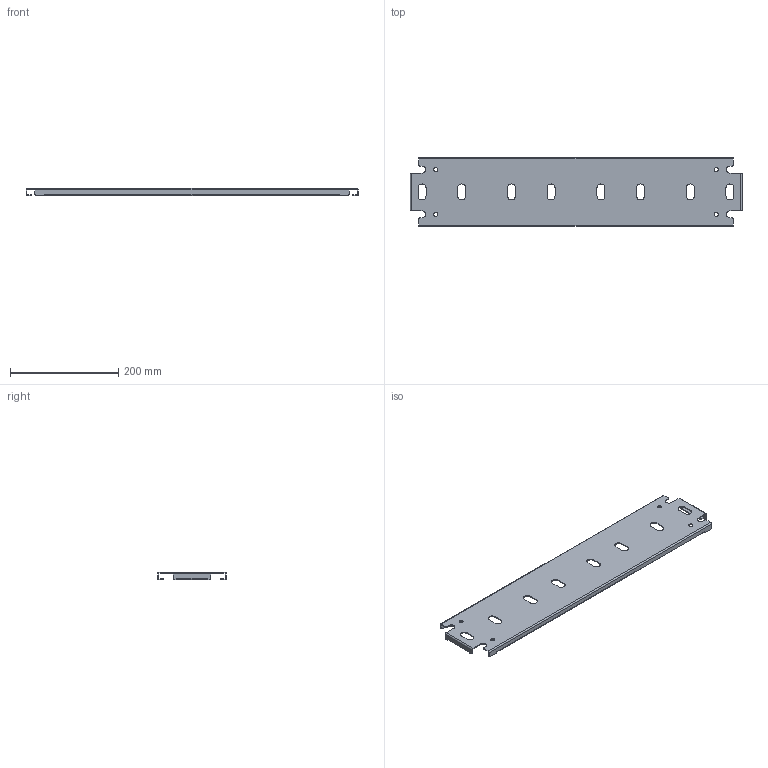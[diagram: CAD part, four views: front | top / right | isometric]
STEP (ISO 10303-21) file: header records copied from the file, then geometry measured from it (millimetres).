
FILE_DESCRIPTION(/* description */ ('1412BTSSCU 24.125" x 56" Inner Panel'),/* implementation_level */ '2;1');
FILE_NAME(/* name */ 'C:\Vault_Workspace\Inventor_Dwg\BoxCad\Result\1412BTSSCU07804DT\e-mail\3D\1412BTSSCU07804DTIP1.stp',/* time_stamp */ '2022-11-03T15:52:35-04:00',/* author */ ('BoxCad'),/* organization */ (''),/* preprocessor_version */ 'ST-DEVELOPER v18.1',/* originating_system */ 'Autodesk Inventor 2020',/* authorisation */ '');
FILE_SCHEMA (('AUTOMOTIVE_DESIGN { 1 0 10303 214 3 1 1 }'));
Length unit declared in the file: inch
Products named in the file (2): 1412BTSSCU07804DTIP1; 1412BTSSCU07804DTIP1-P
Assembly tree (1 placements, depth 2):
  1412BTSSCU07804DTIP1
    1412BTSSCU07804DTIP1-P
Bounding box: 612.77 x 127 x 13 mm (x, y, z)
Volume: 165274.6 mm3; surface area: 195561.5 mm2
Topology: 1 solids, 1 shells, 142 faces, 420 edges, 280 vertices
Faces by surface type: plane 82, cylinder 60
Full cylindrical faces by diameter (mm): 7.366 x4
Entity records: 4881 total; most frequent: CARTESIAN_POINT 845, ORIENTED_EDGE 840, DIRECTION 830, EDGE_CURVE 420, LINE 300, VECTOR 300, VERTEX_POINT 280, AXIS2_PLACEMENT_3D 265
